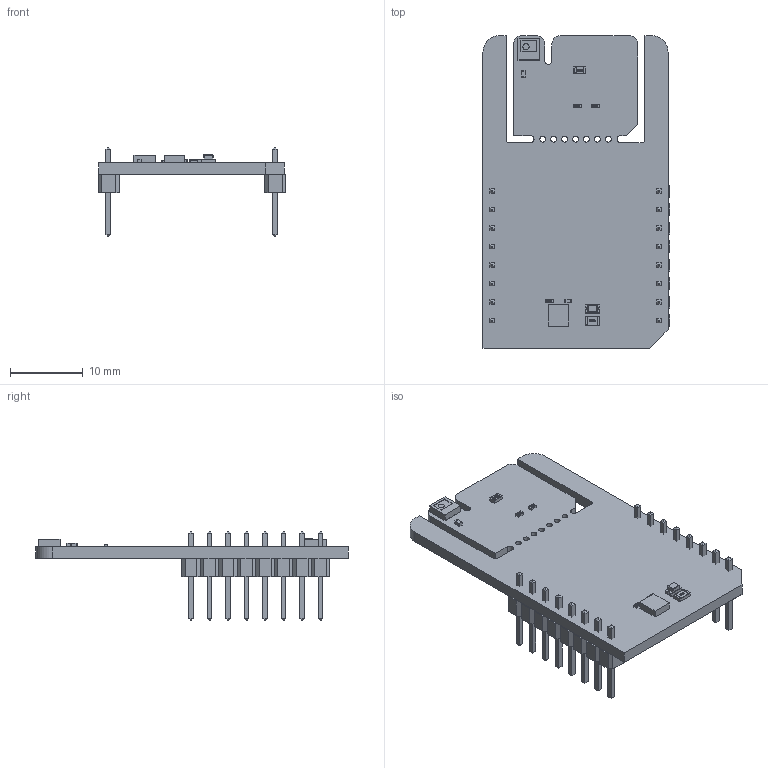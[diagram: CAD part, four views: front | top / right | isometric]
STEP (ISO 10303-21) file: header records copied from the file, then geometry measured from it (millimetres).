
FILE_DESCRIPTION(('Open CASCADE Model'),'2;1');
FILE_NAME('Open CASCADE Shape Model','2026-01-22T15:42:43',('Author'),( 'Open CASCADE'),'Open CASCADE STEP processor 6.8','Open CASCADE 6.8' ,'Unknown');
FILE_SCHEMA(('AUTOMOTIVE_DESIGN { 1 0 10303 214 1 1 1 1 }'));
Length unit declared in the file: millimetre
Products named in the file (27): PCB; Board; U2; MLX90637-max-dim_RGB8421504; R4; User_Library-R_0402; R3; C2; User_Library-SMD_CAPACITOR0402; JP1; User_Library-R_0603; MBD1; Header_1x8; Free-Models; 1240637040; User_Library-PinHeaderX5-1_PinHeaderX5_Body_1; User_Library-PinHeaderX5-1_PinHeaderX5_Pins_1; U1; 803555992; Extruded; C1; R2; LD1; led_0805_green; R1; User_Library-R_0805
Assembly tree (31 placements, depth 7):
  PCB
    Board
    U2
      MLX90637-max-dim_RGB8421504
    R4
      User_Library-R_0402
    R3
      User_Library-R_0402
    C2
      User_Library-SMD_CAPACITOR0402
    JP1
      User_Library-R_0603
    MBD1
      Header_1x8  x2
        PCB
          Free-Models
            1240637040  x2
              User_Library-PinHeaderX5-1_PinHeaderX5_Body_1
              User_Library-PinHeaderX5-1_PinHeaderX5_Pins_1
    U1
      803555992
        Extruded
    C1
      User_Library-SMD_CAPACITOR0402
    R2
      User_Library-R_0402
    LD1
      led_0805_green
    R1
      User_Library-R_0805
Bounding box: 25.78 x 42.93 x 12.19 mm (x, y, z)
Volume: 2140.8 mm3; surface area: 3855.8 mm2
Topology: 35 solids, 35 shells, 1138 faces, 2857 edges, 1818 vertices
Faces by surface type: plane 885, bspline 165, cylinder 68, sphere 20
Full cylindrical faces by diameter (mm): 0.8 x7
Entity records: 27683 total; most frequent: CARTESIAN_POINT 10228, ORIENTED_EDGE 2890, DIRECTION 2325, EDGE_CURVE 1445, LINE 1111, VECTOR 1111, VERTEX_POINT 938, FACE_BOUND 627
